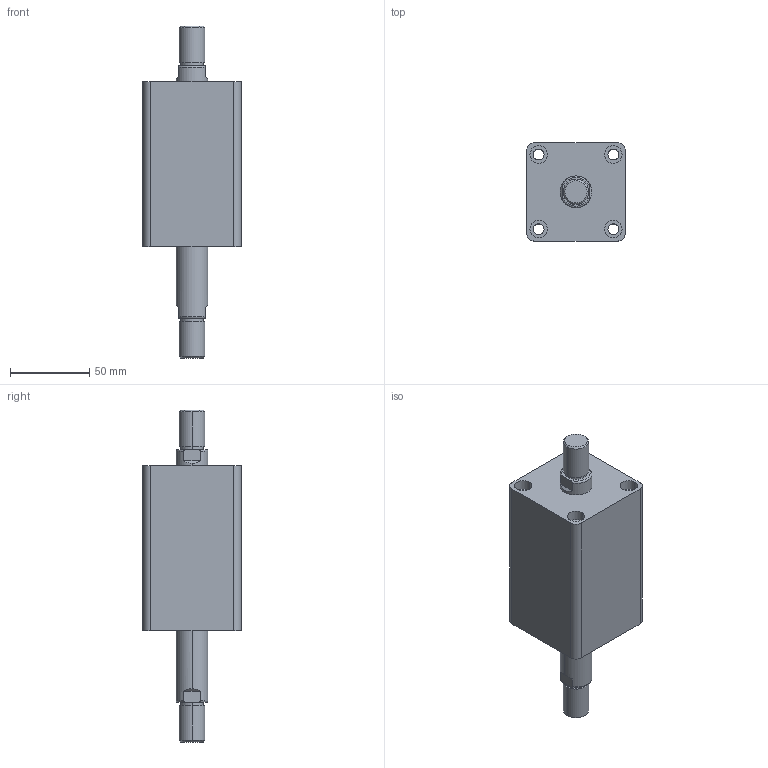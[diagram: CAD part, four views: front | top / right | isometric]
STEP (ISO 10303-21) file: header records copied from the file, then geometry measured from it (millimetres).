
FILE_DESCRIPTION (( 'STEP AP203' ), '1' );
FILE_NAME ('HTB-SW32-35W.STEP', '2019-10-07T08:52:39', ( '微软用户' ), ( '微软中国' ), 'SwSTEP 2.0', 'SolidWorks 2012', '' );
FILE_SCHEMA (( 'CONFIG_CONTROL_DESIGN' ));
Length unit declared in the file: millimetre
Products named in the file (3): HTB-SW32-35W; HTB-SW32-35W活塞杆; HTB-SW32-35掛极
Assembly tree (2 placements, depth 2):
  HTB-SW32-35W
    HTB-SW32-35掛极
    HTB-SW32-35W活塞杆
Bounding box: 62 x 62 x 209 mm (x, y, z)
Volume: 386781 mm3; surface area: 66171.6 mm2
Topology: 2 solids, 2 shells, 108 faces, 240 edges, 156 vertices
Faces by surface type: cylinder 52, plane 36, torus 12, cone 8
Entity records: 3449 total; most frequent: CARTESIAN_POINT 629, DIRECTION 586, ORIENTED_EDGE 480, AXIS2_PLACEMENT_3D 249, EDGE_CURVE 240, VERTEX_POINT 156, EDGE_LOOP 138, CIRCLE 136
